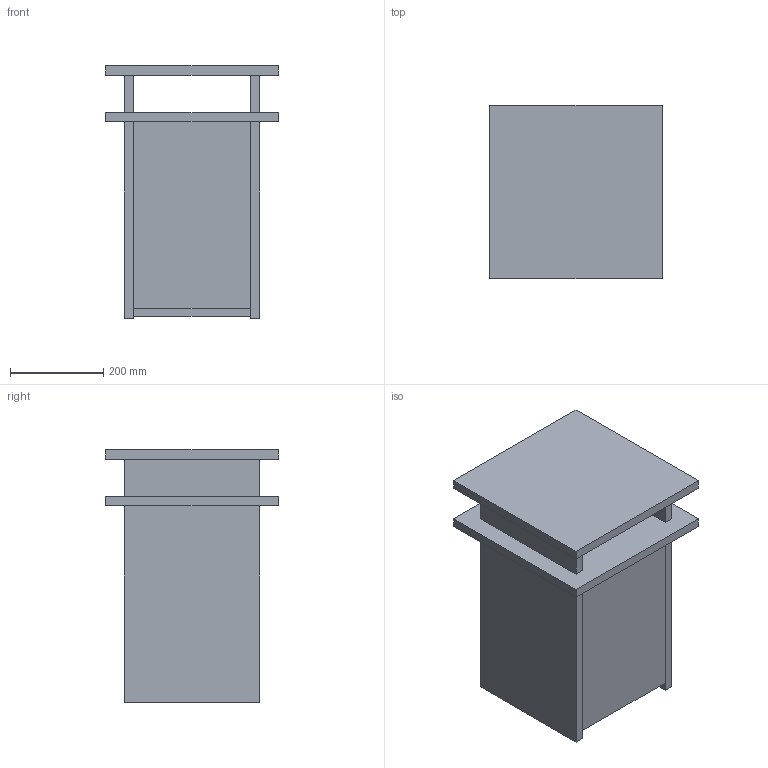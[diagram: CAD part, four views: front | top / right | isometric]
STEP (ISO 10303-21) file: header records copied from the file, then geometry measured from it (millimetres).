
FILE_DESCRIPTION(/* description */ (''),/* implementation_level */ '2;1');
FILE_NAME(/* name */ 'FRAMA_Ratio-BedsideTable-3D',/* time_stamp */ '2025-10-27T09:52:48+01:00',/* author */ (''),/* organization */ (''),/* preprocessor_version */ 'ST-DEVELOPER v16.5',/* originating_system */ 'Rhino 7.38',/* authorisation */ '');
FILE_SCHEMA (('CONFIG_CONTROL_DESIGN'));
Length unit declared in the file: millimetre
Products named in the file (1): Document
Bounding box: 370 x 370 x 540 mm (x, y, z)
Volume: 17803040 mm3; surface area: 2018224 mm2
Topology: 10 solids, 10 shells, 60 faces, 120 edges, 80 vertices
Faces by surface type: plane 60
Entity records: 1412 total; most frequent: CARTESIAN_POINT 382, ORIENTED_EDGE 240, EDGE_CURVE 120, B_SPLINE_CURVE_WITH_KNOTS 120, VERTEX_POINT 80, DIRECTION 64, AXIS2_PLACEMENT_3D 62, ADVANCED_FACE 60
